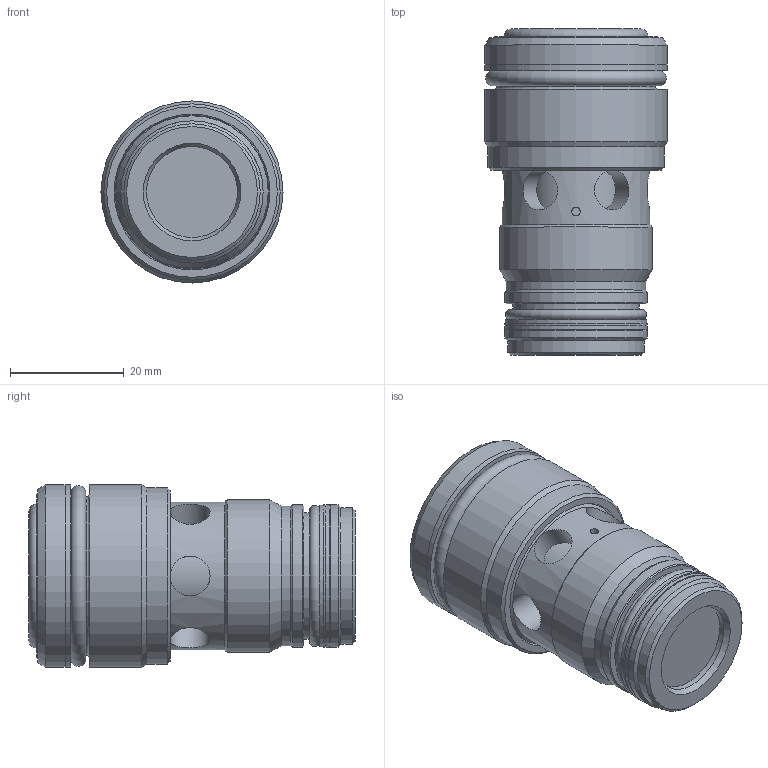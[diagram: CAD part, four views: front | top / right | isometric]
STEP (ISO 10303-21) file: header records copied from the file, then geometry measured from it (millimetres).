
FILE_DESCRIPTION(/* description */ (''),/* implementation_level */ '2;1');
FILE_NAME(/* name */ 'LCDB..B-7XJ二通插装阀.prt.stp',/* time_stamp */ '2022-03-30T18:40:15+08:00',/* author */ (''),/* organization */ (''),/* preprocessor_version */ 'ST-DEVELOPER v16.7',/* originating_system */ 'SIEMENS PLM Software NX 12.0',/* authorisation */ '');
FILE_SCHEMA (('AUTOMOTIVE_DESIGN { 1 0 10303 214 3 1 1 1 }'));
Length unit declared in the file: millimetre
Products named in the file (1): LCDB..B-7XJ二通插装阀
Bounding box: 32 x 57.35 x 32 mm (x, y, z)
Volume: 36636 mm3; surface area: 16567.5 mm2
Topology: 11 solids, 12 shells, 96 faces, 171 edges, 102 vertices
Faces by surface type: cylinder 46, plane 27, cone 17, torus 6
Full cylindrical faces by diameter (mm): 1.5 x1, 7 x6, 16 x1, 17 x1, 18 x1, 19.5 x1, 21.3 x1, 22.3 x3, 23 x1, 23.1 x2, 24 x1, 24.5 x1, 25 x4, 25.1 x1, 26 x1, 26.8 x1, 27 x5, 27.8 x1, 27.9 x1, 28.8 x1, 31 x1, 32 x3
Entity records: 2781 total; most frequent: CARTESIAN_POINT 1101, DIRECTION 356, ORIENTED_EDGE 190, AXIS2_PLACEMENT_3D 178, EDGE_LOOP 174, FACE_BOUND 167, ADVANCED_FACE 96, EDGE_CURVE 95
